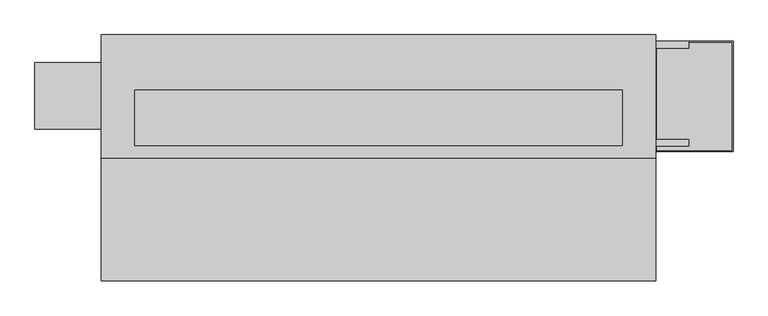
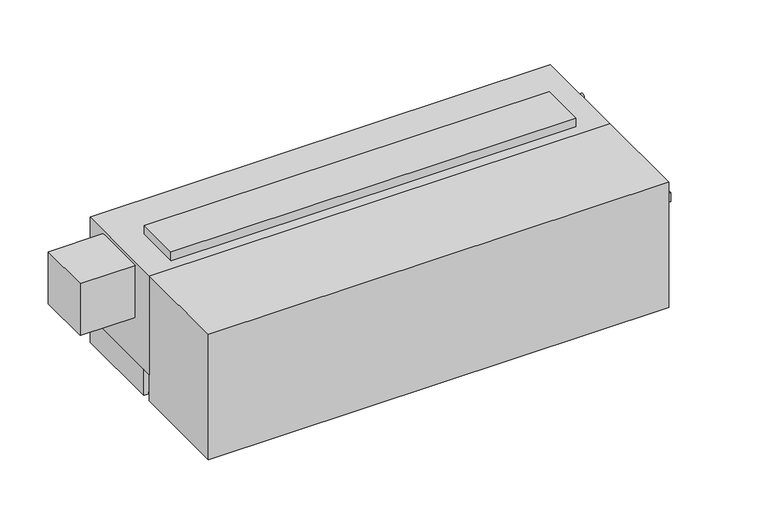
"""IFC4 building model written with IfcOpenShell, lengths in millimetres: proxy geometry, Concealed_Vertical_Low_Boy_Fan_Coil_Unit Fan_-_LHA_-_IEC_-_2-Pipe_RH_2022 : Size 06 - 277v/60Hz/1Ph - 2/1 Coil."""

from ifc_helpers import new_model, si_unit, point, frame, frame_2d, origin, origin_with_axes, place, context, project, spatial, polyline, circle_curve, trimmed, segment, composite_curve, outline, extrude, faceted_brep, source, transform, mapped, element, save


def mechanical_equipment_ad61797d(model_context):
    return source(origin(), model_context, "Body", "SolidModel", [
        faceted_brep([(1600.2, -252.4125, 92.075), (1422.4, -252.4125, 92.075), (1422.4, -506.4125, 92.075), (1600.2, -506.4125, 92.075), (1425.575, -255.5875, 92.075), (1597.025, -255.5875, 92.075), (1597.025, -503.2375, 92.075), (1425.575, -503.2375, 92.075), (1600.2, -252.4125, 66.675), (1600.2, -506.4125, 66.675), (1422.4, -506.4125, 66.675), (1422.4, -252.4125, 66.675), (1597.025, -255.5875, 69.8497888), (1425.575, -255.5875, 69.8497888), (1425.575, -503.2375, 69.8497888), (1597.025, -503.2375, 69.8497888)], [[[0, 1, 2, 3], [4, 5, 6, 7]], [[8, 9, 10, 11]], [[1, 0, 8, 11]], [[2, 1, 11, 10]], [[3, 2, 10, 9]], [[0, 3, 9, 8]], [[12, 13, 14, 15]], [[13, 12, 5, 4]], [[14, 13, 4, 7]], [[15, 14, 7, 6]], [[12, 15, 6, 5]]]),
        extrude(outline(composite_curve([segment(trimmed(circle_curve(frame_2d((1511.3, -379.4125)), 9.525), [point((1501.775, -379.4125))], [point((1520.825, -379.4125))], False, "CARTESIAN"), True, "CONTINUOUS"), segment(trimmed(circle_curve(frame_2d((1511.3, -379.4125)), 9.525), [point((1520.825, -379.4125))], [point((1501.775, -379.4125))], False, "CARTESIAN"), True, "CONTINUOUS")], self_intersect=False)), frame((0.0, 0.0, 41.275), z_axis=(0.0, 0.0, 1.0), x_axis=(1.0, 0.0, 0.0)), (0.0, 0.0, 1.0), 25.4),
        extrude(outline(polyline([(222.6730703, 1306.5868862), (212.725, 1338.7602728), (354.8959244, 1338.7602728), (331.8739183, 1306.5868862), (222.6730703, 1306.5868862)])), frame((0.0, -523.875, 0.0), z_axis=(0.0, 1.0, 0.0), x_axis=(0.0, 0.0, 1.0)), (0.0, 0.0, 1.0), 3.175),
        extrude(outline(polyline([(301.6723557, 1345.5186058), (298.4699632, 1371.6), (327.6988042, 1371.6), (335.7632193, 1345.5186058), (301.6723557, 1345.5186058)])), frame((0.0, -523.875, 0.0), z_axis=(0.0, 1.0, 0.0), x_axis=(0.0, 0.0, 1.0)), (0.0, 0.0, 1.0), 3.175),
        extrude(outline(polyline([(249.8088288, 1371.6), (246.1433279, 1345.5186058), (212.725, 1345.5186058), (221.3592372, 1371.6), (249.8088288, 1371.6)])), frame((0.0, -523.875, 0.0), z_axis=(0.0, 1.0, 0.0), x_axis=(0.0, 0.0, 1.0)), (0.0, 0.0, 1.0), 3.175),
        extrude(outline(polyline([(289.1239903, 1371.6), (291.4058166, 1345.5186058), (255.4682681, 1345.5186058), (258.2095331, 1371.6), (289.1239903, 1371.6)])), frame((0.0, -523.875, 0.0), z_axis=(0.0, 1.0, 0.0), x_axis=(0.0, 0.0, 1.0)), (0.0, 0.0, 1.0), 3.175),
        extrude(outline(polyline([(1346.2, -365.125), (1346.2, -492.125), (228.6, -492.125), (228.6, -365.125), (1346.2, -365.125)])), frame((0.0, 0.0, 365.125), z_axis=(0.0, 0.0, 1.0), x_axis=(1.0, 0.0, 0.0)), (0.0, 0.0, 1.0), 25.4),
        extrude(outline(polyline([(1422.4, -520.7), (152.4, -520.7), (152.4, -238.125), (1422.4, -238.125), (1422.4, -520.7)])), frame((0.0, 0.0, 76.2), z_axis=(0.0, 0.0, 1.0), x_axis=(1.0, 0.0, 0.0)), (0.0, 0.0, 1.0), 288.925),
        extrude(outline(polyline([(1409.7, -495.3), (165.1, -495.3), (165.1, -244.475), (1409.7, -244.475), (1409.7, -495.3)])), origin_with_axes(), (0.0, 0.0, 1.0), 6.35),
        extrude(outline(polyline([(1409.7, -238.125), (1409.7, -244.475), (165.1, -244.475), (165.1, -238.125), (1409.7, -238.125)])), origin_with_axes(), (0.0, 0.0, 1.0), 76.2),
        extrude(outline(polyline([(1422.4, -238.125), (1422.4, -495.3), (1409.7, -495.3), (1409.7, -238.125), (1422.4, -238.125)])), origin_with_axes(), (0.0, 0.0, 1.0), 76.2),
        extrude(outline(polyline([(165.1, -238.125), (165.1, -495.3), (152.4, -495.3), (152.4, -238.125), (165.1, -238.125)])), origin_with_axes(), (0.0, 0.0, 1.0), 76.2),
        extrude(outline(composite_curve([segment(trimmed(circle_curve(frame_2d((-260.35, 260.35)), 7.9375), [point((-252.4125, 260.35))], [point((-268.2875, 260.35))], False, "CARTESIAN"), True, "CONTINUOUS"), segment(trimmed(circle_curve(frame_2d((-260.35, 260.35)), 7.9375), [point((-268.2875, 260.35))], [point((-252.4125, 260.35))], False, "CARTESIAN"), True, "CONTINUOUS")], self_intersect=False)), frame((1422.4, 0.0, 0.0), z_axis=(1.0, 0.0, 0.0), x_axis=(0.0, 1.0, 0.0)), (0.0, 0.0, 1.0), 76.2),
        extrude(outline(composite_curve([segment(trimmed(circle_curve(frame_2d((-485.775, 227.0125)), 7.9375), [point((-477.8375, 227.0125))], [point((-493.7125, 227.0125))], False, "CARTESIAN"), True, "CONTINUOUS"), segment(trimmed(circle_curve(frame_2d((-485.775, 227.0125)), 7.9375), [point((-493.7125, 227.0125))], [point((-477.8375, 227.0125))], False, "CARTESIAN"), True, "CONTINUOUS")], self_intersect=False)), frame((1422.4, 0.0, 0.0), z_axis=(1.0, 0.0, 0.0), x_axis=(0.0, 1.0, 0.0)), (0.0, 0.0, 1.0), 76.2),
        extrude(outline(polyline([(0.0, -301.625), (152.4, -301.625), (152.4, -454.025), (0.0, -454.025), (0.0, -301.625)])), frame((0.0, 0.0, 203.5632719), z_axis=(0.0, 0.0, 1.0), x_axis=(1.0, 0.0, 0.0)), (0.0, 0.0, 1.0), 152.0367281),
        extrude(outline(polyline([(1422.4, -803.275), (152.4, -803.275), (152.4, -520.7), (1422.4, -520.7), (1422.4, -803.275)])), origin_with_axes(), (0.0, 0.0, 1.0), 365.125),
    ])


if __name__ == "__main__":
    model = new_model("IFC4")
    model_context = context("Model", 3, world=origin())
    ifc_project = project(units=[si_unit("LENGTHUNIT", "METRE", prefix="MILLI")], contexts=[model_context])
    site = spatial("IfcSite", under=ifc_project)
    building = spatial("IfcBuilding", under=site)
    placement = place(None, origin())
    mechanical_equipment_shape = mechanical_equipment_ad61797d(model_context)
    element("IfcBuildingElementProxy", 1, Name="Concealed_Vertical_Low_Boy_Fan_Coil_Unit Fan_-_LHA_-_IEC_-_2-Pipe_RH_2022 : Size 06 - 277v/60Hz/1Ph - 2/1 Coil", ObjectType="Concealed_Vertical_Low_Boy_Fan_Coil_Unit Fan_-_LHA_-_IEC_-_2-Pipe_RH_2022 : Size 06 - 277v/60Hz/1Ph - 2/1 Coil", at=placement, inside=building, context=model_context, shape_type="MappedRepresentation", body=[
        mapped(mechanical_equipment_shape, transform((0.0, 0.0, 0.0), x_axis=(1.0, 0.0, 0.0), y_axis=(0.0, 1.0, 0.0), z_axis=(0.0, 0.0, 1.0))),
    ])
    save(model, "model.ifc")
